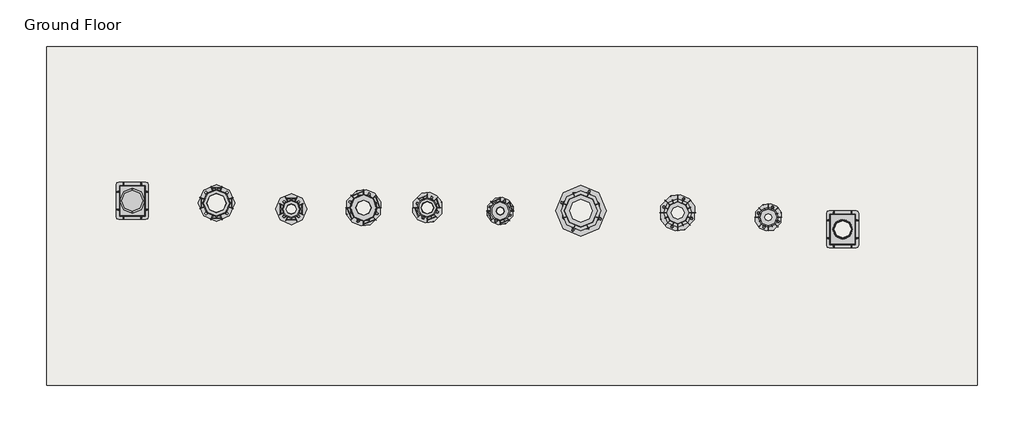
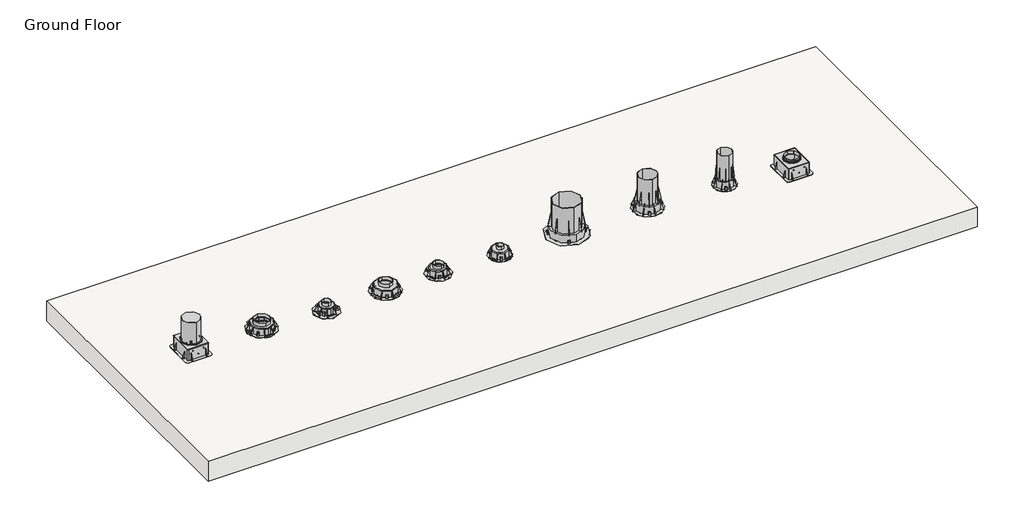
# One storey: 10 proxies, 1 slab.
"""IFC4 building model written with IfcOpenShell, lengths in millimetres."""

from ifc_helpers import new_model, si_unit, frame, origin, place, context, project, spatial, polyline, outline, extrude, transform, mapped, element, save
from components import generic_models_a8caa1fc, generic_models_434f0f41, chc_150_chc_150_485a2955, chc_40_65_chc_40_65_852ca478, chc_80_100_chc_80_100_d89dd4f8, clc_40_clc_40_8cc9e53f, clc_65_clc_65_d5194010, clc_80_clc_80_e5c1e357, clc100_clc100_ec5de276, clc50_clc50_e0bafa5c

model = new_model("IFC4")

# Units and contexts
model_context = context("Model", 3, world=origin())
ifc_project = project(units=[si_unit("LENGTHUNIT", "METRE", prefix="MILLI")], contexts=[model_context])

# Site, building, storey
site = spatial("IfcSite", under=ifc_project)
building = spatial("IfcBuilding", under=site)
storey = spatial("IfcBuildingStorey", under=building, Name="Ground Floor", Elevation=0.0)

# Proxies
placement = place(None, origin())
generic_models_shape = generic_models_a8caa1fc(model_context)
element("IfcBuildingElementProxy", 1, Name="Cast In Collar Assembley : Cast In Collar Assembley", ObjectType="Cast In Collar Assembley : Cast In Collar Assembley", at=placement, inside=storey, context=model_context, shape_type="MappedRepresentation", body=[
    mapped(generic_models_shape, transform((1384.9739182, 983.9833226, 0.0), x_axis=(0.0, 1.0, 0.0), y_axis=(-1.0, 0.0, 0.0), z_axis=(0.0, 0.0, 1.0))),
])
generic_models_2_shape = generic_models_434f0f41(model_context)
element("IfcBuildingElementProxy", 2, Name="FW High Cast In Collar with spring and top hat : FW High Cast In Collar with spring and top hat", ObjectType="FW High Cast In Collar with spring and top hat : FW High Cast In Collar with spring and top hat", at=placement, inside=storey, context=model_context, shape_type="MappedRepresentation", body=[
    mapped(generic_models_2_shape, transform((-2811.8760444, 1152.4586804, 0.0), x_axis=(0.0, 1.0, 0.0), y_axis=(-1.0, 0.0, 0.0), z_axis=(0.0, 0.0, 1.0))),
])
chc_150_chc_150_shape = chc_150_chc_150_485a2955(model_context)
element("IfcBuildingElementProxy", 3, Name="CHC 150 : CHC 150", ObjectType="CHC 150 : CHC 150", at=placement, inside=storey, context=model_context, shape_type="MappedRepresentation", body=[
    mapped(chc_150_chc_150_shape, transform((-161.0608822, 1093.3010842, 0.0), x_axis=(0.0, 1.0, 0.0), y_axis=(-1.0, 0.0, 0.0), z_axis=(0.0, 0.0, 1.0))),
])
chc_40_65_chc_40_65_shape = chc_40_65_chc_40_65_852ca478(model_context)
element("IfcBuildingElementProxy", 4, Name="CHC 40-65 : CHC 40-65", ObjectType="CHC 40-65 : CHC 40-65", at=placement, inside=storey, context=model_context, shape_type="MappedRepresentation", body=[
    mapped(chc_40_65_chc_40_65_shape, transform((945.9180564, 1054.7202003, 0.0), x_axis=(0.0, 1.0, 0.0), y_axis=(-1.0, 0.0, 0.0), z_axis=(0.0, 0.0, 1.0))),
])
chc_80_100_chc_80_100_shape = chc_80_100_chc_80_100_d89dd4f8(model_context)
element("IfcBuildingElementProxy", 5, Name="CHC 80-100 : CHC 80-100", ObjectType="CHC 80-100 : CHC 80-100", at=placement, inside=storey, context=model_context, shape_type="MappedRepresentation", body=[
    mapped(chc_80_100_chc_80_100_shape, transform((410.6551107, 1081.2221676, 0.0), x_axis=(0.0, 1.0, 0.0), y_axis=(-1.0, 0.0, 0.0), z_axis=(0.0, 0.0, 1.0))),
])
clc_40_clc_40_shape = clc_40_clc_40_8cc9e53f(model_context)
element("IfcBuildingElementProxy", 6, Name="CLC 40 : CLC 40", ObjectType="CLC 40 : CLC 40", at=placement, inside=storey, context=model_context, shape_type="MappedRepresentation", body=[
    mapped(clc_40_clc_40_shape, transform((-638.2773917, 1091.9325009, 0.0), x_axis=(0.0, 1.0, 0.0), y_axis=(-1.0, 0.0, 0.0), z_axis=(0.0, 0.0, 1.0))),
])
clc_65_clc_65_shape = clc_65_clc_65_d5194010(model_context)
element("IfcBuildingElementProxy", 7, Name="CLC 65 : CLC 65", ObjectType="CLC 65 : CLC 65", at=placement, inside=storey, context=model_context, shape_type="MappedRepresentation", body=[
    mapped(clc_65_clc_65_shape, transform((-1068.6708143, 1111.5295268, 0.0), x_axis=(0.0, 1.0, 0.0), y_axis=(-1.0, 0.0, 0.0), z_axis=(0.0, 0.0, 1.0))),
])
clc_80_clc_80_shape = clc_80_clc_80_e5c1e357(model_context)
element("IfcBuildingElementProxy", 8, Name="CLC 80 : CLC 80", ObjectType="CLC 80 : CLC 80", at=placement, inside=storey, context=model_context, shape_type="MappedRepresentation", body=[
    mapped(clc_80_clc_80_shape, transform((-1445.7401656, 1111.3899748, 0.0), x_axis=(0.0, 1.0, 0.0), y_axis=(-1.0, 0.0, 0.0), z_axis=(0.0, 0.0, 1.0))),
])
clc100_clc100_shape = clc100_clc100_ec5de276(model_context)
element("IfcBuildingElementProxy", 9, Name="CLC100 : CLC100", ObjectType="CLC100 : CLC100", at=placement, inside=storey, context=model_context, shape_type="MappedRepresentation", body=[
    mapped(clc100_clc100_shape, transform((-2314.6008236, 1138.7846176, 0.0), x_axis=(0.0, 1.0, 0.0), y_axis=(-1.0, 0.0, 0.0), z_axis=(0.0, 0.0, 1.0))),
])
clc50_clc50_shape = clc50_clc50_e0bafa5c(model_context)
element("IfcBuildingElementProxy", 10, Name="CLC50 : CLC50", ObjectType="CLC50 : CLC50", at=placement, inside=storey, context=model_context, shape_type="MappedRepresentation", body=[
    mapped(clc50_clc50_shape, transform((-1872.7661309, 1103.1748978, 0.0), x_axis=(0.0, 1.0, 0.0), y_axis=(-1.0, 0.0, 0.0), z_axis=(0.0, 0.0, 1.0))),
])

# Slab
element("IfcSlab", 11, ObjectType="Generic 150mm", at=placement, inside=storey, context=model_context, shape_type="SweptSolid", body=[
    extrude(outline(polyline([(2181.3603444, 2063.6067092), (2181.3603444, 63.6067092), (-3318.6396556, 63.6067092), (-3318.6396556, 2063.6067092), (2181.3603444, 2063.6067092)])), frame((0.0, 0.0, -150.0), z_axis=(0.0, 0.0, 1.0), x_axis=(1.0, 0.0, 0.0)), (0.0, 0.0, 1.0), 150.0),
])

save(model, "model.ifc")
